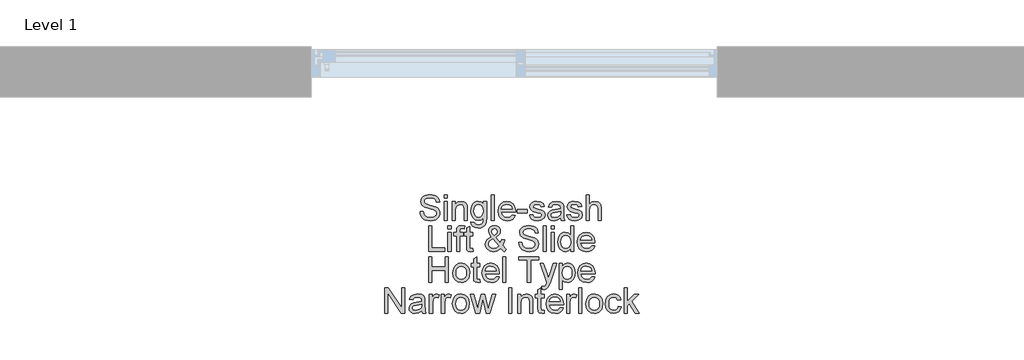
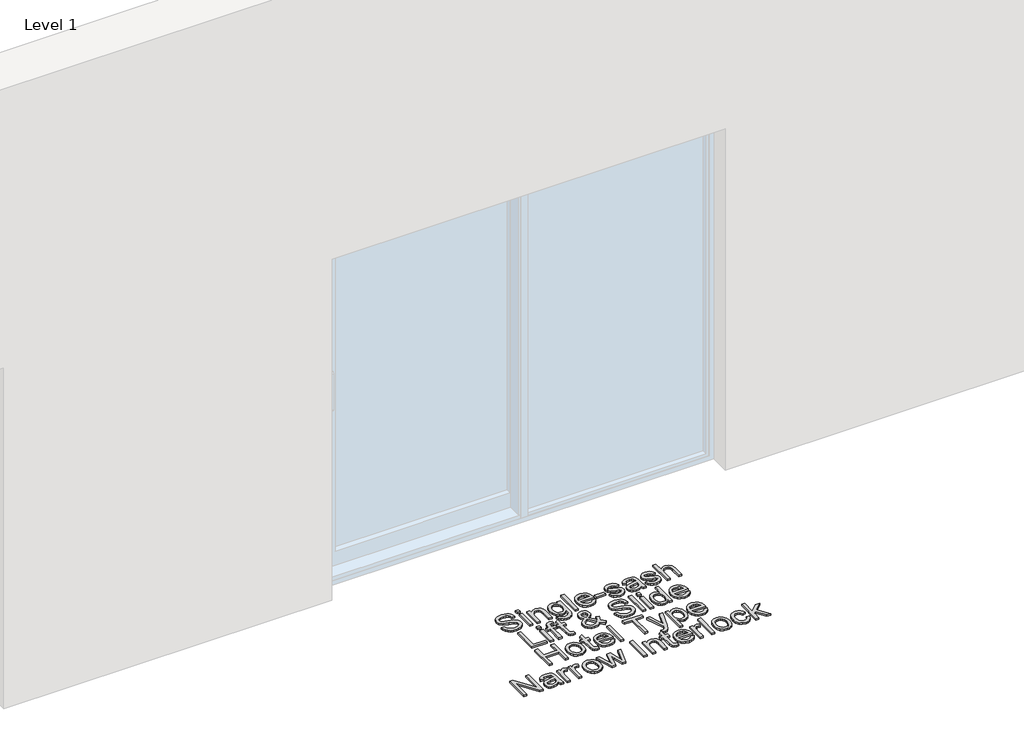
# One storey, part 11 of 13: 1 proxy.
"""IFC4 building model written with IfcOpenShell, lengths in millimetres."""

from ifc_helpers import new_model, si_unit, origin, origin_with_axes, place, context, project, spatial, polyline, outline, extrude, element, save

model = new_model("IFC4")

# Units and contexts
model_context = context("Model", 3, world=origin())
ifc_project = project(units=[si_unit("LENGTHUNIT", "METRE", prefix="MILLI")], contexts=[model_context])

# Site, building, storey
site = spatial("IfcSite", under=ifc_project)
building = spatial("IfcBuilding", under=site)
storey = spatial("IfcBuildingStorey", under=building, Name="Level 1", Elevation=0.0)

# Proxy
placement = place(None, origin())
element("IfcBuildingElementProxy", 1, Name="150mm Arial", ObjectType="150mm Arial", at=placement, inside=storey, context=model_context, shape_type="SweptSolid", body=[
    extrude(outline(polyline([(15821.3631783, -845.8649684), (15840.1987364, -845.8649684), (15846.2687894, -864.7189207), (15861.0944338, -876.6382973), (15883.6823883, -881.18164), (15903.364075, -877.7419433), (15916.074398, -868.287376), (15920.2498586, -855.6506295), (15917.1228616, -843.8967997), (15904.3205682, -835.3435434), (15876.8949655, -828.1514504), (15847.3724354, -818.86243), (15831.3511745, -804.846126), (15826.0720678, -786.1209324), (15827.7045442, -775.0890711), (15832.6019732, -764.8021708), (15840.6355963, -756.0833675), (15851.6766547, -749.7557972), (15879.5988981, -744.6238433), (15909.3973397, -749.9949205), (15920.8200757, -756.6259934), (15929.2629675, -765.7770581), (15934.6064535, -776.8778973), (15936.730972, -789.358294), (15917.8954138, -789.358294), (15914.4373231, -778.119499), (15907.226836, -770.007701), (15895.9604499, -765.0964764), (15880.3346621, -763.4594015), (15864.3409924, -765.0780823), (15853.3689119, -769.9341246), (15847.0229475, -777.0802324), (15844.907626, -785.5691094), (15846.4067451, -792.8071877), (15850.9041025, -798.6289202), (15881.6590373, -809.1503453), (15914.9891461, -818.6049126), (15925.7267018, -825.4383206), (15933.2176989, -833.8720154), (15937.6184873, -843.8140263), (15939.0854168, -855.1723829), (15937.3977581, -866.7836584), (15932.3347821, -877.7051551), (15924.1034225, -887.1045401), (15912.9106128, -894.1494803), (15899.4507303, -898.5502687), (15884.4181523, -900.0171981), (15865.9642717, -898.4353055), (15850.7753438, -893.6896278), (15838.6766247, -885.7617708), (15829.4933704, -874.6333404), (15823.5980614, -861.0768889), (15821.3631783, -845.8649684)])), origin_with_axes(), (0.0, 0.0, 1.0), 10.0),
    extrude(outline(polyline([(15964.9843092, -897.6627533), (15964.9843092, -787.0038492), (15983.8198674, -787.0038492), (15983.8198674, -897.6627533), (15964.9843092, -897.6627533)])), origin_with_axes(), (0.0, 0.0, 1.0), 10.0),
    extrude(outline(polyline([(15964.9843092, -765.8138463), (15964.9843092, -746.9782881), (15983.8198674, -746.9782881), (15983.8198674, -765.8138463), (15964.9843092, -765.8138463)])), origin_with_axes(), (0.0, 0.0, 1.0), 10.0),
    extrude(outline(polyline([(16012.0732046, -897.6627533), (16012.0732046, -787.0038492), (16030.9087627, -787.0038492), (16030.9087627, -802.454893), (16045.3113429, -789.1007766), (16064.9746355, -784.6494044), (16082.76173, -788.2362539), (16094.9018358, -797.654033), (16100.5488244, -811.5047901), (16101.5421058, -829.7149488), (16101.5421058, -897.6627533), (16082.7065477, -897.6627533), (16082.7065477, -832.2533346), (16080.5360439, -815.5882802), (16072.8657043, -806.7775064), (16059.9346522, -803.4849626), (16048.9027908, -805.3335696), (16039.4988073, -810.8793907), (16033.0562739, -821.5939538), (16030.9087627, -838.9487869), (16030.9087627, -897.6627533), (16012.0732046, -897.6627533)])), origin_with_axes(), (0.0, 0.0, 1.0), 10.0),
    extrude(outline(polyline([(16122.7321087, -907.0805324), (16141.5676669, -909.4349772), (16147.674508, -919.3677911), (16165.9582432, -923.5616458), (16185.2352597, -918.8159681), (16194.4323096, -905.4986398), (16195.7198966, -883.5360847), (16182.4577507, -894.1310862), (16166.289337, -897.6627533), (16146.8697662, -893.551672), (16132.3890111, -881.2184282), (16123.3805008, -863.1370281), (16120.377664, -841.7814783), (16125.7671352, -812.590042), (16132.36142, -800.7396432), (16141.3653318, -791.9334679), (16152.4707695, -786.4704203), (16165.369632, -784.6494044), (16182.1726421, -788.7696828), (16195.7198966, -801.1305178), (16195.7198966, -787.0038492), (16214.5554547, -787.0038492), (16214.5554547, -882.5428033), (16213.2678678, -904.6019275), (16209.4051068, -919.1286678), (16202.7510412, -928.7625775), (16193.0895403, -936.14321), (16180.6321363, -940.8337055), (16165.5903612, -942.397204), (16148.0653826, -940.1945105), (16134.2652093, -933.5864302), (16125.4130488, -922.5545688), (16122.7321087, -907.0805324)]), holes=[polyline([(16139.2132221, -840.4938913), (16141.2227775, -857.7705495), (16147.2514437, -869.6485394), (16156.3151364, -876.5325312), (16167.4297712, -878.8271952), (16178.4616325, -876.5463268), (16187.5713104, -869.7037217), (16193.68275, -857.9774831), (16195.7198966, -841.0457143), (16193.6229692, -824.7163522), (16187.3321871, -812.957924), (16178.089152, -805.8532029), (16167.1354656, -803.4849626), (16156.3795157, -805.8164147), (16147.3618083, -812.8107712), (16141.2503687, -824.3944555), (16139.2132221, -840.4938913)])]), origin_with_axes(), (0.0, 0.0, 1.0), 10.0),
    extrude(outline(polyline([(16242.808792, -897.6627533), (16242.808792, -746.9782881), (16261.6443501, -746.9782881), (16261.6443501, -897.6627533), (16242.808792, -897.6627533)])), origin_with_axes(), (0.0, 0.0, 1.0), 10.0),
    extrude(outline(polyline([(16367.3736355, -864.7005266), (16385.8413117, -867.0549713), (16379.1872461, -880.9701078), (16368.569252, -891.3719712), (16354.2264527, -897.8558914), (16336.3979715, -900.0171981), (16314.2974607, -896.2877944), (16297.2921155, -885.0995832), (16286.4487936, -867.1791315), (16282.834353, -843.2530063), (16286.4855818, -818.5221391), (16297.4392683, -800.0268718), (16314.2146872, -788.4937713), (16335.3311138, -784.6494044), (16355.7899512, -788.4845742), (16372.1377074, -799.9900836), (16382.856869, -818.4485627), (16386.4299229, -843.1426417), (16386.3195583, -848.2194132), (16301.6699112, -848.2194132), (16304.9302654, -862.3184907), (16312.504036, -872.6835659), (16323.4347297, -879.0571214), (16336.7658535, -881.18164), (16355.2335297, -877.2453026), (16367.3736355, -864.7005266)]), holes=[polyline([(16301.6699112, -829.383855), (16367.5943647, -829.383855), (16365.0467819, -819.4326471), (16360.0527838, -812.3141305), (16349.0715063, -805.6922545), (16335.2575374, -803.4849626), (16322.56101, -805.2461976), (16312.0625776, -810.5299028), (16304.7647185, -818.765861), (16301.6699112, -829.383855)])]), origin_with_axes(), (0.0, 0.0, 1.0), 10.0),
    extrude(outline(polyline([(16395.847702, -852.9283027), (16395.847702, -834.0927446), (16454.7088212, -834.0927446), (16454.7088212, -852.9283027), (16395.847702, -852.9283027)])), origin_with_axes(), (0.0, 0.0, 1.0), 10.0),
    extrude(outline(polyline([(16468.8354898, -864.7005266), (16487.671048, -862.3460818), (16490.6416951, -870.4026975), (16496.3898512, -876.3255976), (16516.3658436, -881.18164), (16535.5692837, -876.7302678), (16541.8232776, -866.2824192), (16540.2505821, -861.4815591), (16535.5324955, -857.8211333), (16516.1451144, -852.4500561), (16487.7814126, -843.2346122), (16475.4021834, -832.4740638), (16471.1899346, -817.2805374), (16474.5744489, -803.2458393), (16483.808287, -792.5220791), (16495.782846, -786.9486669), (16511.9880478, -784.6494044), (16534.9070961, -788.3466185), (16549.4752231, -798.3530087), (16555.9499463, -815.2571864), (16537.1143881, -817.6116312), (16530.0326597, -807.2189648), (16513.4595758, -803.4849626), (16495.4333581, -807.0534179), (16490.0254927, -815.367551), (16492.2695729, -820.8489927), (16499.296119, -825.0060593), (16515.519715, -829.015973), (16543.1660469, -837.8819291), (16556.0051286, -847.9251076), (16560.6588358, -864.2958564), (16555.1957882, -882.3220741), (16539.4320447, -895.4002791), (16516.1083262, -900.0171981), (16497.1164182, -897.791512), (16483.256464, -891.1144538), (16474.0042318, -880.0595999), (16468.8354898, -864.7005266)])), origin_with_axes(), (0.0, 0.0, 1.0), 10.0),
    extrude(outline(polyline([(16652.4821818, -883.5360847), (16634.2168407, -896.30159), (16614.0385133, -900.0171981), (16598.2977624, -897.782315), (16586.686487, -891.0776656), (16579.5265836, -880.8965314), (16577.1399492, -868.2321937), (16580.7451927, -853.3329729), (16590.2181541, -842.5172423), (16603.4067236, -836.3368247), (16619.703896, -833.5041334), (16652.3718172, -827.0294103), (16652.4821818, -822.8355555), (16651.1853978, -814.4294519), (16647.2950457, -808.9296161), (16638.5946365, -804.846126), (16626.4729247, -803.4849626), (16607.4166374, -807.1086002), (16598.3299521, -819.966076), (16579.494394, -817.6116312), (16587.6429801, -799.2175314), (16604.0505171, -788.438589), (16628.9009459, -784.6494044), (16651.7280237, -787.9971306), (16664.6222876, -796.4032342), (16670.398035, -809.1871335), (16671.31774, -825.6682469), (16671.31774, -849.10233), (16672.2742331, -881.8254334), (16676.0266295, -897.6627533), (16657.1910713, -897.6627533), (16652.4821818, -883.5360847)]), holes=[polyline([(16652.4821818, -845.8649684), (16622.095129, -851.6407157), (16605.8899271, -854.6941363), (16598.5506813, -859.6605432), (16595.9755073, -866.9078185), (16601.5857078, -877.0981498), (16618.048427, -881.18164), (16637.1047144, -876.6750855), (16649.391973, -865.7673844), (16652.3718172, -851.1992574), (16652.4821818, -845.8649684)])]), origin_with_axes(), (0.0, 0.0, 1.0), 10.0),
    extrude(outline(polyline([(16690.1532981, -864.7005266), (16708.9888563, -862.3460818), (16711.9595034, -870.4026975), (16717.7076595, -876.3255976), (16737.6836519, -881.18164), (16756.887092, -876.7302678), (16763.1410859, -866.2824192), (16761.5683904, -861.4815591), (16756.8503038, -857.8211333), (16737.4629227, -852.4500561), (16709.0992209, -843.2346122), (16696.7199917, -832.4740638), (16692.5077429, -817.2805374), (16695.8922572, -803.2458393), (16705.1260953, -792.5220791), (16717.1006543, -786.9486669), (16733.3058561, -784.6494044), (16756.2249044, -788.3466185), (16770.7930314, -798.3530087), (16777.2677546, -815.2571864), (16758.4321964, -817.6116312), (16751.350468, -807.2189648), (16734.7773841, -803.4849626), (16716.7511664, -807.0534179), (16711.343301, -815.367551), (16713.5873812, -820.8489927), (16720.6139273, -825.0060593), (16736.8375233, -829.015973), (16764.4838552, -837.8819291), (16777.3229369, -847.9251076), (16781.9766441, -864.2958564), (16776.5135965, -882.3220741), (16760.749853, -895.4002791), (16737.4261345, -900.0171981), (16718.4342265, -897.791512), (16704.5742723, -891.1144538), (16695.3220401, -880.0595999), (16690.1532981, -864.7005266)])), origin_with_axes(), (0.0, 0.0, 1.0), 10.0),
    extrude(outline(polyline([(16803.166647, -897.6627533), (16803.166647, -746.9782881), (16822.0022052, -746.9782881), (16822.0022052, -802.3813166), (16836.6898938, -789.0823825), (16854.7804909, -784.6494044), (16875.9337057, -789.4870527), (16888.7727873, -802.8595632), (16892.6355482, -827.6180215), (16892.6355482, -897.6627533), (16873.7999901, -897.6627533), (16873.7999901, -829.567796), (16872.300871, -817.7771781), (16867.8035136, -809.7021683), (16860.5562383, -805.039264), (16850.8073654, -803.4849626), (16835.3747157, -807.6788173), (16825.0740198, -819.046371), (16822.0022052, -838.8752105), (16822.0022052, -897.6627533), (16803.166647, -897.6627533)])), origin_with_axes(), (0.0, 0.0, 1.0), 10.0),
    extrude(outline(polyline([(15873.1609632, -1080.6249801), (15873.1609632, -929.9405149), (15891.9965214, -929.9405149), (15891.9965214, -1061.789422), (15967.338754, -1061.789422), (15967.338754, -1080.6249801), (15873.1609632, -1080.6249801)])), origin_with_axes(), (0.0, 0.0, 1.0), 10.0),
    extrude(outline(polyline([(15986.1743121, -948.776073), (15986.1743121, -929.9405149), (16005.0098703, -929.9405149), (16005.0098703, -948.776073), (15986.1743121, -948.776073)])), origin_with_axes(), (0.0, 0.0, 1.0), 10.0),
    extrude(outline(polyline([(15986.1743121, -1080.6249801), (15986.1743121, -969.966076), (16005.0098703, -969.966076), (16005.0098703, -1080.6249801), (15986.1743121, -1080.6249801)])), origin_with_axes(), (0.0, 0.0, 1.0), 10.0),
    extrude(outline(polyline([(16037.9720971, -1080.6249801), (16037.9720971, -988.8016341), (16021.4909837, -988.8016341), (16021.4909837, -969.966076), (16037.9720971, -969.966076), (16037.9720971, -958.8192515), (16039.9586598, -943.1106903), (16049.5971681, -931.8902895), (16068.5798791, -927.5860701), (16085.7599682, -929.6462093), (16083.0008533, -947.3045451), (16072.1483344, -946.4216283), (16060.2841401, -949.5486252), (16056.8076552, -961.2104845), (16056.8076552, -969.966076), (16077.9976581, -969.966076), (16077.9976581, -988.8016341), (16056.8076552, -988.8016341), (16056.8076552, -1080.6249801), (16037.9720971, -1080.6249801)])), origin_with_axes(), (0.0, 0.0, 1.0), 10.0),
    extrude(outline(polyline([(16134.5043326, -1064.9164189), (16136.8587774, -1081.1768031), (16122.7688969, -1082.9794249), (16106.9867593, -1079.8524279), (16099.1140847, -1071.6486594), (16096.8332163, -1050.2747155), (16096.8332163, -988.8016341), (16082.7065477, -988.8016341), (16082.7065477, -969.966076), (16096.8332163, -969.966076), (16096.8332163, -943.0739021), (16115.6687744, -932.0006541), (16115.6687744, -969.966076), (16134.5043326, -969.966076), (16134.5043326, -988.8016341), (16115.6687744, -988.8016341), (16115.6687744, -1049.7228925), (16116.6620558, -1059.4349772), (16119.8810233, -1062.8746738), (16126.3005641, -1064.1438667), (16134.5043326, -1064.9164189)])), origin_with_axes(), (0.0, 0.0, 1.0), 10.0),
    extrude(outline(polyline([(16298.6164906, -1062.0101512), (16278.6404983, -1077.7371064), (16255.2799916, -1082.9794249), (16234.4946589, -1079.0982698), (16218.4917921, -1067.4548047), (16210.2420383, -1054.054703), (16207.4921204, -1039.1646793), (16209.7040109, -1025.9669127), (16216.3396824, -1014.1119154), (16227.3715437, -1003.6088844), (16242.7720038, -994.4670168), (16229.6202224, -975.4107295), (16226.3276786, -961.2840609), (16228.9212467, -948.5645409), (16236.7019508, -937.6292486), (16248.4097953, -930.0968647), (16262.7847843, -927.5860701), (16276.4607975, -929.9865001), (16287.3960898, -937.1877902), (16294.5697887, -947.7552005), (16296.9610217, -960.2539913), (16295.1905896, -970.7478252), (16289.8792933, -980.4507128), (16268.634108, -997.4836492), (16295.8941639, -1031.4391574), (16304.024356, -1010.5802482), (16322.8599141, -1014.6637384), (16309.5425859, -1045.6761906), (16332.2776932, -1068.4848743), (16318.1510246, -1082.9794249), (16298.6164906, -1062.0101512)]), holes=[polyline([(16259.1059644, -985.6010608), (16274.5937964, -973.9208074), (16278.1254635, -962.8291653), (16273.4717563, -951.0017591), (16261.8282911, -946.4216283), (16249.9273086, -950.9649709), (16245.1632367, -962.0566131), (16246.7819175, -968.9544005), (16251.6747481, -976.6247401), (16259.1059644, -985.6010608)]), polyline([(16285.9981382, -1048.4353055), (16252.3737238, -1006.4599699), (16231.6803616, -1022.2421075), (16226.3276786, -1036.6630817), (16228.1578915, -1045.5474319), (16233.6485303, -1054.7628758), (16242.4960923, -1061.798619), (16254.3970748, -1064.1438667), (16271.7059227, -1059.766071), (16285.9981382, -1048.4353055)])]), origin_with_axes(), (0.0, 0.0, 1.0), 10.0),
    extrude(outline(polyline([(16405.265481, -1028.8271952), (16424.1010392, -1028.8271952), (16430.1710921, -1047.6811474), (16444.9967365, -1059.6005241), (16467.584691, -1064.1438667), (16487.2663778, -1060.7041701), (16499.9767007, -1051.2496028), (16504.1521613, -1038.6128563), (16501.0251644, -1026.8590265), (16488.222871, -1018.3057701), (16460.7972682, -1011.1136771), (16431.2747381, -1001.8246567), (16415.2534772, -987.8083527), (16409.9743706, -969.0831592), (16411.6068469, -958.0512978), (16416.504276, -947.7643976), (16424.5378991, -939.0455943), (16435.5789574, -932.7180239), (16463.5012009, -927.5860701), (16493.2996425, -932.9571472), (16504.7223784, -939.5882202), (16513.1652702, -948.7392848), (16518.5087562, -959.840124), (16520.6332747, -972.3205207), (16501.7977166, -972.3205207), (16498.3396258, -961.0817258), (16491.1291387, -952.9699278), (16479.8627526, -948.0587031), (16464.2369649, -946.4216283), (16448.2432951, -948.040309), (16437.2712146, -952.8963514), (16430.9252502, -960.0424591), (16428.8099287, -968.5313362), (16430.3090479, -975.7694144), (16434.8064053, -981.591147), (16465.56134, -992.1125721), (16498.8914488, -1001.5671393), (16509.6290045, -1008.4005474), (16517.1200017, -1016.8342421), (16521.52079, -1026.7762531), (16522.9877195, -1038.1346097), (16521.3000608, -1049.7458851), (16516.2370849, -1060.6673819), (16508.0057252, -1070.0667668), (16496.8129155, -1077.1117071), (16483.353033, -1081.5124954), (16468.320455, -1082.9794249), (16449.8665744, -1081.3975323), (16434.6776466, -1076.6518546), (16422.5789274, -1068.7239976), (16413.3956731, -1057.5955672), (16407.5003642, -1044.0391157), (16405.265481, -1028.8271952)])), origin_with_axes(), (0.0, 0.0, 1.0), 10.0),
    extrude(outline(polyline([(16548.886612, -1080.6249801), (16548.886612, -929.9405149), (16567.7221701, -929.9405149), (16567.7221701, -1080.6249801), (16548.886612, -1080.6249801)])), origin_with_axes(), (0.0, 0.0, 1.0), 10.0),
    extrude(outline(polyline([(16595.9755073, -948.776073), (16595.9755073, -929.9405149), (16614.8110655, -929.9405149), (16614.8110655, -948.776073), (16595.9755073, -948.776073)])), origin_with_axes(), (0.0, 0.0, 1.0), 10.0),
    extrude(outline(polyline([(16595.9755073, -1080.6249801), (16595.9755073, -969.966076), (16614.8110655, -969.966076), (16614.8110655, -1080.6249801), (16595.9755073, -1080.6249801)])), origin_with_axes(), (0.0, 0.0, 1.0), 10.0),
    extrude(outline(polyline([(16711.343301, -1080.6249801), (16711.343301, -1062.8562797), (16698.8812984, -1077.9486386), (16681.655224, -1082.9794249), (16669.47833, -1081.158409), (16658.3315055, -1075.6953614), (16648.8953323, -1066.9719596), (16641.8503921, -1055.3698811), (16637.4633993, -1041.3581756), (16636.0010684, -1025.4058926), (16641.3905396, -995.42351), (16648.1227802, -983.5317245), (16657.5405592, -974.7853301), (16668.9311055, -969.4050559), (16681.5816476, -967.6116312), (16698.9456778, -972.743585), (16711.343301, -986.0793073), (16711.343301, -929.9405149), (16730.1788592, -929.9405149), (16730.1788592, -1080.6249801), (16711.343301, -1080.6249801)]), holes=[polyline([(16654.8366266, -1025.3323162), (16656.9611451, -1042.3698511), (16663.3347007, -1054.4869644), (16672.5961299, -1061.7296411), (16683.3842694, -1064.1438667), (16694.1678104, -1061.8400057), (16703.1947148, -1054.9284227), (16709.3061545, -1043.2803591), (16711.343301, -1026.767056), (16709.2693663, -1008.7132471), (16703.047562, -996.1960622), (16693.7907313, -988.8844076), (16682.6117172, -986.4471893), (16671.7132131, -988.7878385), (16662.7828777, -995.8097861), (16656.8231893, -1007.871717), (16654.8366266, -1025.3323162)])]), origin_with_axes(), (0.0, 0.0, 1.0), 10.0),
    extrude(outline(polyline([(16835.9081446, -1047.6627533), (16854.3758208, -1050.0171981), (16847.7217552, -1063.9323346), (16837.1037611, -1074.334198), (16822.7609618, -1080.8181182), (16804.9324806, -1082.9794249), (16782.8319697, -1079.2500212), (16765.8266245, -1068.06181), (16754.9833027, -1050.1413583), (16751.3688621, -1026.215233), (16755.0200909, -1001.4843659), (16765.9737773, -982.9890986), (16782.7491963, -971.455998), (16803.8656228, -967.6116312), (16824.3244603, -971.446801), (16840.6722164, -982.9523104), (16851.3913781, -1001.4107895), (16854.9644319, -1026.1048684), (16854.8540673, -1031.18164), (16770.2044203, -1031.18164), (16773.4647744, -1045.2807174), (16781.038545, -1055.6457926), (16791.9692388, -1062.0193482), (16805.3003626, -1064.1438667), (16823.7680388, -1060.2075294), (16835.9081446, -1047.6627533)]), holes=[polyline([(16770.2044203, -1012.3460818), (16836.1288738, -1012.3460818), (16833.581291, -1002.3948738), (16828.5872929, -995.2763572), (16817.6060153, -988.6544813), (16803.7920464, -986.4471893), (16791.0955191, -988.2084244), (16780.5970866, -993.4921296), (16773.2992275, -1001.7280877), (16770.2044203, -1012.3460818)])]), origin_with_axes(), (0.0, 0.0, 1.0), 10.0),
    extrude(outline(polyline([(15871.9837408, -1263.5872069), (15871.9837408, -1112.9027417), (15890.819299, -1112.9027417), (15890.819299, -1174.1183057), (15970.8704211, -1174.1183057), (15970.8704211, -1112.9027417), (15989.7059793, -1112.9027417), (15989.7059793, -1263.5872069), (15970.8704211, -1263.5872069), (15970.8704211, -1192.9538638), (15890.819299, -1192.9538638), (15890.819299, -1263.5872069), (15871.9837408, -1263.5872069)])), origin_with_axes(), (0.0, 0.0, 1.0), 10.0),
    extrude(outline(polyline([(16015.6048717, -1208.2577548), (16019.6791648, -1181.5771131), (16031.9020441, -1162.8243284), (16047.0036, -1153.6364756), (16065.0850001, -1150.573858), (16084.8724529, -1154.3032617), (16100.6775831, -1165.4914729), (16111.0380598, -1183.2555747), (16114.4915521, -1206.7126504), (16112.9648418, -1225.7413466), (16108.3847109, -1240.2267002), (16100.8845168, -1251.0746205), (16090.5976165, -1259.191017), (16078.3793357, -1264.253993), (16065.0850001, -1265.9416516), (16045.058424, -1262.2260435), (16029.2716879, -1251.079219), (16019.0215758, -1232.9426367), (16015.6048717, -1208.2577548)]), holes=[polyline([(16034.4404299, -1208.2209666), (16036.6201307, -1225.2676986), (16043.1592332, -1237.4124029), (16053.0000766, -1244.6826709), (16065.0850001, -1247.1060935), (16077.1147413, -1244.6688753), (16086.9371906, -1237.3572206), (16093.4762931, -1225.0515679), (16095.6559939, -1207.6323554), (16093.4624975, -1191.0822642), (16086.8820083, -1179.1031067), (16077.0457635, -1171.8328388), (16065.0850001, -1169.4094161), (16053.0000766, -1171.8236417), (16043.1592332, -1179.0663185), (16036.6201307, -1191.1834317), (16034.4404299, -1208.2209666)])]), origin_with_axes(), (0.0, 0.0, 1.0), 10.0),
    extrude(outline(polyline([(16175.707116, -1247.8786457), (16178.0615608, -1264.1390299), (16163.9716804, -1265.9416516), (16148.1895428, -1262.8146547), (16140.3168681, -1254.6108862), (16138.0359997, -1233.2369423), (16138.0359997, -1171.7638609), (16123.9093311, -1171.7638609), (16123.9093311, -1152.9283027), (16138.0359997, -1152.9283027), (16138.0359997, -1126.0361289), (16156.8715579, -1114.9628808), (16156.8715579, -1152.9283027), (16175.707116, -1152.9283027), (16175.707116, -1171.7638609), (16156.8715579, -1171.7638609), (16156.8715579, -1232.6851193), (16157.8648393, -1242.397204), (16161.0838067, -1245.8369006), (16167.5033476, -1247.1060935), (16175.707116, -1247.8786457)])), origin_with_axes(), (0.0, 0.0, 1.0), 10.0),
    extrude(outline(polyline([(16272.0186224, -1230.6249801), (16290.4862985, -1232.9794249), (16283.832233, -1246.8945613), (16273.2142389, -1257.2964248), (16258.8714396, -1263.7803449), (16241.0429584, -1265.9416516), (16218.9424475, -1262.2122479), (16201.9371023, -1251.0240367), (16191.0937805, -1233.1035851), (16187.4793399, -1209.1774598), (16191.1305687, -1184.4465927), (16202.0842551, -1165.9513254), (16218.8596741, -1154.4182248), (16239.9761006, -1150.573858), (16260.4349381, -1154.4090278), (16276.7826942, -1165.9145372), (16287.5018559, -1184.3730163), (16291.0749097, -1209.0670952), (16290.9645451, -1214.1438667), (16206.314898, -1214.1438667), (16209.5752522, -1228.2429442), (16217.1490228, -1238.6080194), (16228.0797166, -1244.981575), (16241.4108404, -1247.1060935), (16259.8785165, -1243.1697561), (16272.0186224, -1230.6249801)]), holes=[polyline([(16206.314898, -1195.3083086), (16272.2393516, -1195.3083086), (16269.6917688, -1185.3571006), (16264.6977707, -1178.238584), (16253.7164931, -1171.6167081), (16239.9025242, -1169.4094161), (16227.2059968, -1171.1706512), (16216.7075644, -1176.4543563), (16209.4097053, -1184.6903145), (16206.314898, -1195.3083086)])]), origin_with_axes(), (0.0, 0.0, 1.0), 10.0),
    extrude(outline(polyline([(16309.9104679, -1263.5872069), (16309.9104679, -1112.9027417), (16328.746026, -1112.9027417), (16328.746026, -1263.5872069), (16309.9104679, -1263.5872069)])), origin_with_axes(), (0.0, 0.0, 1.0), 10.0),
    extrude(outline(polyline([(16455.8860436, -1263.5872069), (16455.8860436, -1131.7382998), (16406.4427034, -1131.7382998), (16406.4427034, -1112.9027417), (16524.1649419, -1112.9027417), (16524.1649419, -1131.7382998), (16474.7216017, -1131.7382998), (16474.7216017, -1263.5872069), (16455.8860436, -1263.5872069)])), origin_with_axes(), (0.0, 0.0, 1.0), 10.0),
    extrude(outline(polyline([(16543.0005, -1305.9672127), (16540.6460553, -1287.8306304), (16550.2109871, -1289.4860993), (16559.1505196, -1287.4075661), (16564.6319613, -1281.6134246), (16569.7823093, -1267.7442734), (16571.2538373, -1263.1825367), (16531.2282762, -1152.9283027), (16551.0939039, -1152.9283027), (16572.320695, -1214.3645959), (16579.7151232, -1238.9391132), (16587.1095513, -1217.2340755), (16608.9249536, -1152.9283027), (16628.6434285, -1152.9283027), (16590.1261836, -1266.2359572), (16580.1197933, -1290.8104745), (16569.1936981, -1304.0910145), (16554.5152065, -1308.3216575), (16543.0005, -1305.9672127)])), origin_with_axes(), (0.0, 0.0, 1.0), 10.0),
    extrude(outline(polyline([(16644.2416251, -1305.9672127), (16644.2416251, -1152.9283027), (16663.0771833, -1152.9283027), (16663.0771833, -1171.3959789), (16676.1002059, -1155.7793882), (16693.6849653, -1150.573858), (16706.4228793, -1152.3948738), (16717.5605067, -1157.8579215), (16726.6287979, -1166.631907), (16733.1587033, -1178.3857368), (16738.4194159, -1207.4116262), (16736.9340923, -1223.5202591), (16732.4781216, -1237.9274377), (16725.1940581, -1249.9019967), (16715.2244561, -1258.7127704), (16703.6131806, -1264.1344313), (16691.4040969, -1265.9416516), (16675.014954, -1261.1040034), (16663.0771833, -1248.8719271), (16663.0771833, -1305.9672127), (16644.2416251, -1305.9672127)]), holes=[polyline([(16663.0771833, -1209.1406716), (16665.1143298, -1226.0264552), (16671.2257695, -1237.8354672), (16680.2434769, -1244.7884369), (16690.9994267, -1247.1060935), (16701.9301205, -1244.7056635), (16711.1777541, -1237.5043734), (16717.4823318, -1225.2631), (16719.5838577, -1207.74272), (16717.5329156, -1190.9489069), (16711.3800892, -1178.974348), (16702.3761774, -1171.8006491), (16691.7719789, -1169.4094161), (16681.1263936, -1171.9524004), (16671.7775924, -1179.5813533), (16665.2522856, -1192.0571514), (16663.0771833, -1209.1406716)])]), origin_with_axes(), (0.0, 0.0, 1.0), 10.0),
    extrude(outline(polyline([(16837.085367, -1230.6249801), (16855.5530431, -1232.9794249), (16848.8989775, -1246.8945613), (16838.2809835, -1257.2964248), (16823.9381842, -1263.7803449), (16806.109703, -1265.9416516), (16784.0091921, -1262.2122479), (16767.0038469, -1251.0240367), (16756.1605251, -1233.1035851), (16752.5460845, -1209.1774598), (16756.1973133, -1184.4465927), (16767.1509997, -1165.9513254), (16783.9264187, -1154.4182248), (16805.0428452, -1150.573858), (16825.5016827, -1154.4090278), (16841.8494388, -1165.9145372), (16852.5686004, -1184.3730163), (16856.1416543, -1209.0670952), (16856.0312897, -1214.1438667), (16771.3816426, -1214.1438667), (16774.6419968, -1228.2429442), (16782.2157674, -1238.6080194), (16793.1464612, -1244.981575), (16806.477585, -1247.1060935), (16824.9452611, -1243.1697561), (16837.085367, -1230.6249801)]), holes=[polyline([(16771.3816426, -1195.3083086), (16837.3060962, -1195.3083086), (16834.7585134, -1185.3571006), (16829.7645153, -1178.238584), (16818.7832377, -1171.6167081), (16804.9692688, -1169.4094161), (16792.2727414, -1171.1706512), (16781.774309, -1176.4543563), (16774.4764499, -1184.6903145), (16771.3816426, -1195.3083086)])]), origin_with_axes(), (0.0, 0.0, 1.0), 10.0),
    extrude(outline(polyline([(15612.9948162, -1446.5494336), (15612.9948162, -1295.8649684), (15633.1547496, -1295.8649684), (15711.8814965, -1415.2426759), (15711.8814965, -1295.8649684), (15730.7170547, -1295.8649684), (15730.7170547, -1446.5494336), (15710.5571213, -1446.5494336), (15631.8303744, -1327.134938), (15631.8303744, -1446.5494336), (15612.9948162, -1446.5494336)])), origin_with_axes(), (0.0, 0.0, 1.0), 10.0),
    extrude(outline(polyline([(15831.9581798, -1432.422765), (15813.6928387, -1445.1882703), (15793.5145113, -1448.9038784), (15777.7737604, -1446.6689953), (15766.1624849, -1439.9643459), (15759.0025816, -1429.7832117), (15756.6159471, -1417.118874), (15760.2211907, -1402.2196532), (15769.6941521, -1391.4039226), (15782.8827216, -1385.223505), (15799.179894, -1382.3908137), (15831.8478152, -1375.9160906), (15831.9581798, -1371.7222358), (15830.6613957, -1363.3161322), (15826.7710436, -1357.8162964), (15818.0706344, -1353.7328063), (15805.9489227, -1352.3716429), (15786.8926353, -1355.9952805), (15777.8059501, -1368.8527563), (15758.9703919, -1366.4983115), (15767.1189781, -1348.1042117), (15783.5265151, -1337.3252693), (15808.3769439, -1333.5360847), (15831.2040217, -1336.8838109), (15844.0982856, -1345.2899145), (15849.8740329, -1358.0738138), (15850.7937379, -1374.5549272), (15850.7937379, -1397.9890103), (15851.7502311, -1430.7121138), (15855.5026274, -1446.5494336), (15836.6670693, -1446.5494336), (15831.9581798, -1432.422765)]), holes=[polyline([(15831.9581798, -1394.7516487), (15801.571127, -1400.527396), (15785.3659251, -1403.5808166), (15778.0266793, -1408.5472235), (15775.4515053, -1415.7944988), (15781.0617057, -1425.9848301), (15797.524425, -1430.0683203), (15816.5807124, -1425.5617658), (15828.867971, -1414.6540647), (15831.8478152, -1400.0859377), (15831.9581798, -1394.7516487)])]), origin_with_axes(), (0.0, 0.0, 1.0), 10.0),
    extrude(outline(polyline([(15876.6926304, -1446.5494336), (15876.6926304, -1335.8905295), (15893.1737438, -1335.8905295), (15893.1737438, -1352.2612783), (15904.8723912, -1337.1781165), (15916.644615, -1333.5360847), (15935.5537496, -1339.3486203), (15929.2629675, -1356.2344038), (15916.0192157, -1352.3716429), (15905.3690319, -1356.087251), (15898.5816091, -1366.3879469), (15895.5281885, -1388.3872902), (15895.5281885, -1446.5494336), (15876.6926304, -1446.5494336)])), origin_with_axes(), (0.0, 0.0, 1.0), 10.0),
    extrude(outline(polyline([(15947.3259734, -1446.5494336), (15947.3259734, -1335.8905295), (15963.8070868, -1335.8905295), (15963.8070868, -1352.2612783), (15975.5057343, -1337.1781165), (15987.2779581, -1333.5360847), (16006.1870927, -1339.3486203), (15999.8963106, -1356.2344038), (15986.6525587, -1352.3716429), (15976.002375, -1356.087251), (15969.2149522, -1366.3879469), (15966.1615316, -1388.3872902), (15966.1615316, -1446.5494336), (15947.3259734, -1446.5494336)])), origin_with_axes(), (0.0, 0.0, 1.0), 10.0),
    extrude(outline(polyline([(16013.250427, -1391.2199816), (16017.3247201, -1364.5393399), (16029.5475994, -1345.7865552), (16044.6491553, -1336.5987023), (16062.7305553, -1333.5360847), (16082.5180081, -1337.2654885), (16098.3231384, -1348.4536996), (16108.6836151, -1366.2178015), (16112.1371073, -1389.6748772), (16110.610397, -1408.7035734), (16106.0302662, -1423.188927), (16098.530072, -1434.0368473), (16088.2431717, -1442.1532438), (16076.0248909, -1447.2162198), (16062.7305553, -1448.9038784), (16042.7039792, -1445.1882703), (16026.9172431, -1434.0414458), (16016.667131, -1415.9048634), (16013.250427, -1391.2199816)]), holes=[polyline([(16032.0859851, -1391.1831934), (16034.265686, -1408.2299253), (16040.8047884, -1420.3746297), (16050.6456318, -1427.6448976), (16062.7305553, -1430.0683203), (16074.7602966, -1427.631102), (16084.5827458, -1420.3194474), (16091.1218483, -1408.0137947), (16093.3015491, -1390.5945822), (16091.1080527, -1374.0444909), (16084.5275635, -1362.0653335), (16074.6913187, -1354.7950655), (16062.7305553, -1352.3716429), (16050.6456318, -1354.7858685), (16040.8047884, -1362.0285453), (16034.265686, -1374.1456585), (16032.0859851, -1391.1831934)])]), origin_with_axes(), (0.0, 0.0, 1.0), 10.0),
    extrude(outline(polyline([(16151.6844218, -1446.5494336), (16118.0232192, -1335.8905295), (16137.5945413, -1335.8905295), (16156.6876169, -1400.4538196), (16162.3897878, -1423.5200207), (16167.0618892, -1401.2999482), (16182.2554156, -1335.8905295), (16204.6962173, -1335.8905295), (16219.8161673, -1401.1160072), (16223.9732338, -1421.2391524), (16229.9329221, -1400.0123613), (16249.0627859, -1335.8905295), (16268.7076844, -1335.8905295), (16234.7889645, -1446.5494336), (16212.017069, -1446.5494336), (16197.5593066, -1381.6550497), (16193.3654518, -1361.42154), (16174.7138347, -1446.5494336), (16151.6844218, -1446.5494336)])), origin_with_axes(), (0.0, 0.0, 1.0), 10.0),
    extrude(outline(polyline([(16345.2271394, -1446.5494336), (16345.2271394, -1295.8649684), (16364.0626976, -1295.8649684), (16364.0626976, -1446.5494336), (16345.2271394, -1446.5494336)])), origin_with_axes(), (0.0, 0.0, 1.0), 10.0),
    extrude(outline(polyline([(16399.3793691, -1446.5494336), (16399.3793691, -1335.8905295), (16418.2149273, -1335.8905295), (16418.2149273, -1351.3415733), (16432.6175074, -1337.9874569), (16452.2808, -1333.5360847), (16470.0678945, -1337.1229342), (16482.2080003, -1346.5407133), (16487.854989, -1360.3914704), (16488.8482703, -1378.6016291), (16488.8482703, -1446.5494336), (16470.0127122, -1446.5494336), (16470.0127122, -1381.1400149), (16467.8422084, -1364.4749605), (16460.1718688, -1355.6641867), (16447.2408167, -1352.3716429), (16436.2089554, -1354.2202499), (16426.8049719, -1359.766071), (16420.3624384, -1370.4806341), (16418.2149273, -1387.8354672), (16418.2149273, -1446.5494336), (16399.3793691, -1446.5494336)])), origin_with_axes(), (0.0, 0.0, 1.0), 10.0),
    extrude(outline(polyline([(16554.7727239, -1430.8408725), (16557.1271686, -1447.1012566), (16543.0372882, -1448.9038784), (16527.2551506, -1445.7768815), (16519.3824759, -1437.573113), (16517.1016076, -1416.199169), (16517.1016076, -1354.7260876), (16502.974939, -1354.7260876), (16502.974939, -1335.8905295), (16517.1016076, -1335.8905295), (16517.1016076, -1308.9983556), (16535.9371657, -1297.9251076), (16535.9371657, -1335.8905295), (16554.7727239, -1335.8905295), (16554.7727239, -1354.7260876), (16535.9371657, -1354.7260876), (16535.9371657, -1415.6473461), (16536.9304471, -1425.3594307), (16540.1494146, -1428.7991274), (16546.5689554, -1430.0683203), (16554.7727239, -1430.8408725)])), origin_with_axes(), (0.0, 0.0, 1.0), 10.0),
    extrude(outline(polyline([(16651.0842302, -1413.5872069), (16669.5519064, -1415.9416516), (16662.8978408, -1429.8567881), (16652.2798467, -1440.2586515), (16637.9370474, -1446.7425717), (16620.1085662, -1448.9038784), (16598.0080554, -1445.1744747), (16581.0027101, -1433.9862635), (16570.1593883, -1416.0658118), (16566.5449477, -1392.1396866), (16570.1961765, -1367.4088194), (16581.1498629, -1348.9135521), (16597.9252819, -1337.3804516), (16619.0417084, -1333.5360847), (16639.5005459, -1337.3712545), (16655.8483021, -1348.8767639), (16666.5674637, -1367.335243), (16670.1405176, -1392.029322), (16670.030153, -1397.1060935), (16585.3805059, -1397.1060935), (16588.6408601, -1411.205171), (16596.2146306, -1421.5702462), (16607.1453244, -1427.9438017), (16620.4764482, -1430.0683203), (16638.9441244, -1426.1319829), (16651.0842302, -1413.5872069)]), holes=[polyline([(16585.3805059, -1378.2705353), (16651.3049594, -1378.2705353), (16648.7573766, -1368.3193274), (16643.7633785, -1361.2008108), (16632.782101, -1354.5789349), (16618.968132, -1352.3716429), (16606.2716047, -1354.1328779), (16595.7731722, -1359.4165831), (16588.4753132, -1367.6525413), (16585.3805059, -1378.2705353)])]), origin_with_axes(), (0.0, 0.0, 1.0), 10.0),
    extrude(outline(polyline([(16688.9760757, -1446.5494336), (16688.9760757, -1335.8905295), (16705.4571891, -1335.8905295), (16705.4571891, -1352.2612783), (16717.1558365, -1337.1781165), (16728.9280604, -1333.5360847), (16747.8371949, -1339.3486203), (16741.5464128, -1356.2344038), (16728.302661, -1352.3716429), (16717.6524772, -1356.087251), (16710.8650544, -1366.3879469), (16707.8116339, -1388.3872902), (16707.8116339, -1446.5494336), (16688.9760757, -1446.5494336)])), origin_with_axes(), (0.0, 0.0, 1.0), 10.0),
    extrude(outline(polyline([(16759.6094188, -1446.5494336), (16759.6094188, -1295.8649684), (16778.4449769, -1295.8649684), (16778.4449769, -1446.5494336), (16759.6094188, -1446.5494336)])), origin_with_axes(), (0.0, 0.0, 1.0), 10.0),
    extrude(outline(polyline([(16801.9894246, -1391.2199816), (16806.0637177, -1364.5393399), (16818.286597, -1345.7865552), (16833.3881529, -1336.5987023), (16851.469553, -1333.5360847), (16871.2570058, -1337.2654885), (16887.062136, -1348.4536996), (16897.4226127, -1366.2178015), (16900.8761049, -1389.6748772), (16899.3493947, -1408.7035734), (16894.7692638, -1423.188927), (16887.2690696, -1434.0368473), (16876.9821694, -1442.1532438), (16864.7638886, -1447.2162198), (16851.469553, -1448.9038784), (16831.4429769, -1445.1882703), (16815.6562408, -1434.0414458), (16805.4061287, -1415.9048634), (16801.9894246, -1391.2199816)]), holes=[polyline([(16820.8249828, -1391.1831934), (16823.0046836, -1408.2299253), (16829.5437861, -1420.3746297), (16839.3846294, -1427.6448976), (16851.469553, -1430.0683203), (16863.4992942, -1427.631102), (16873.3217435, -1420.3194474), (16879.860846, -1408.0137947), (16882.0405468, -1390.5945822), (16879.8470504, -1374.0444909), (16873.2665612, -1362.0653335), (16863.4303164, -1354.7950655), (16851.469553, -1352.3716429), (16839.3846294, -1354.7858685), (16829.5437861, -1362.0285453), (16823.0046836, -1374.1456585), (16820.8249828, -1391.1831934)])]), origin_with_axes(), (0.0, 0.0, 1.0), 10.0),
    extrude(outline(polyline([(16992.6994509, -1406.5238726), (17011.5350091, -1408.8783173), (17006.2834936, -1425.6307437), (16996.4150591, -1438.2904829), (16982.8586076, -1446.2505295), (16966.5430411, -1448.9038784), (16946.5072679, -1445.2020658), (16930.8400934, -1434.0966281), (16920.7279371, -1416.0750089), (16917.3572183, -1391.6246518), (16918.7965566, -1374.8630284), (16923.1145715, -1360.3362881), (16930.380241, -1348.605451), (16940.6625427, -1340.231537), (16952.9635969, -1335.2099478), (16966.2855237, -1333.5360847), (16982.2010185, -1335.8353472), (16994.925137, -1342.7331346), (17004.053209, -1353.861565), (17009.1805643, -1368.8527563), (16990.3450062, -1371.207201), (16981.6078088, -1357.0989265), (16966.4326765, -1352.3716429), (16954.260381, -1354.6984965), (16944.5988801, -1361.6790574), (16938.2943024, -1373.6904045), (16936.1927765, -1391.109617), (16938.2483171, -1408.7633542), (16944.4149391, -1420.8160881), (16953.901696, -1427.7552622), (16965.9176417, -1430.0683203), (16975.6711131, -1428.6243834), (16983.667948, -1424.2925729), (16989.485082, -1416.9625242), (16992.6994509, -1406.5238726)])), origin_with_axes(), (0.0, 0.0, 1.0), 10.0),
    extrude(outline(polyline([(17028.0161225, -1446.5494336), (17028.0161225, -1295.8649684), (17046.8516806, -1295.8649684), (17046.8516806, -1376.8357956), (17089.0845337, -1335.8905295), (17115.1305789, -1335.8905295), (17072.3826911, -1377.3508304), (17117.4850237, -1446.5494336), (17095.4856804, -1446.5494336), (17058.8814219, -1390.4474294), (17046.8516806, -1402.1092886), (17046.8516806, -1446.5494336), (17028.0161225, -1446.5494336)])), origin_with_axes(), (0.0, 0.0, 1.0), 10.0),
])

save(model, "model.ifc")
